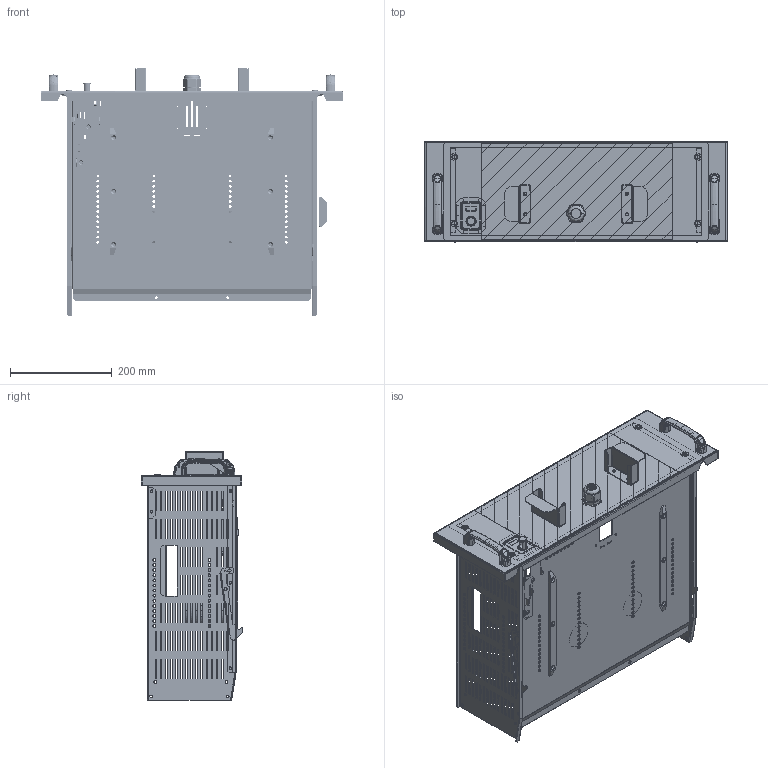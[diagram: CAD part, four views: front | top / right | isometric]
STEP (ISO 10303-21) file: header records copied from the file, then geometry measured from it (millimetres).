
FILE_DESCRIPTION(('CAx-IF Rec.Pracs.---Model Styling and Organization---1.2---2011-12-15','CAx-IF Rec.Pracs.---Geometric and Assembly Validation Properties---4.1---2014-06-16','CAx-IF Rec.Pracs.---PMI Polyline Presentation---2.0---2013-05-24'),'2;1');
FILE_NAME('R5M2W4M1BEPC.stp','2021-05-05T12:19:29+03:00',(''),(''),'STEP Interface 4.4 by CT CoreTechnologie','3D_Evolution4.4 by CT CoreTechnologie','');
FILE_SCHEMA(('AUTOMOTIVE_DESIGN { 1 0 10303 214 1 1 1 1 }'));
Length unit declared in the file: millimetre
Products named in the file (59): R5M2W4M1BEPC; RB.1768.00.00.0; CNTD CMV103D_-00; 20504_01; RB.1770.00.00.0; Insulator ISBK_ISBK9988; RB.1775.00.00.0 ÑÁ_-01; RB.1775.01.00.0 ÑÁ; RB.1505.00.02.0; M5x12-DIN 7500M ISR_stright; RB.1505.00.05.0_-00; Ì4-GOST R 50273-92 (DIN 985)_stright DIN EN ISO 10511 - M4 - N; RB.1505.00.01.0; RB.1503.00.00.0 ÑÁ; RB.1503.00.06.0_-00; RB.1503.00.07.0_-00; RB.1503.00.08.0_'­ ª«¥¥­­ ï'; RB.1503.00.01.0_-00; RB.1503.00.03.0_123; RB.1503.00.04.0_123; RB.1503.00.05.0_123; RB.1500.00.00.1 ÑÁ_-00 (ëª«); RB.1500.00.06.0; RB.1500.00.07.0; RB.1500.00.08.1; M6-DIN 985 (ISO 10511) (CM250600)_stright; RB.1500.00.10.0_In prestressed condition - 30 mm; M4x25 GOST 17473-80 (DIN 7985)_stright; RB.1500.00.03.0; RB.1500.00.04.1_-00; RB.1500.00.05.1; M5x8-DIN7500C_stright; RB.1501.00.00.0 ÑÁ_-01; RB.1501.00.01.0_-01; M6 art.MGR-MKO-0625_2¬¬; RB.1499.00.04.0_-01; RB.1775.02.00.0 ÑÁ_-01; RB.1775.02.01.0; M5-DIN 985 (ISO 10511)._stright; RB.1499.00.01.0_-01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
Assembly tree (103 placements, depth 5):
  R5M2W4M1BEPC
    RB.1768.00.00.0
    CNTD CMV103D_-00
      20504_01
    RB.1770.00.00.0
    Insulator ISBK_ISBK9988  x2
    RB.1775.00.00.0 ÑÁ_-01
      RB.1775.01.00.0 ÑÁ
        RB.1505.00.02.0  x2
        M5x12-DIN 7500M ISR_stright  x7
        RB.1505.00.05.0_-00
        Ì4-GOST R 50273-92 (DIN 985)_stright DIN EN ISO 10511 - M4 - N
        RB.1505.00.01.0
        RB.1503.00.00.0 ÑÁ
          RB.1503.00.06.0_-00
          RB.1503.00.07.0_-00
          RB.1503.00.01.0_-00
          RB.1503.00.03.0_123
          RB.1503.00.04.0_123
          RB.1503.00.05.0_123
        RB.1500.00.00.1 ÑÁ_-00 (ëª«)
          RB.1500.00.06.0
          RB.1500.00.07.0
          RB.1500.00.08.1
          M6-DIN 985 (ISO 10511) (CM250600)_stright
          RB.1500.00.10.0_In prestressed condition - 30 mm
          Ì4-GOST R 50273-92 (DIN 985)_stright DIN EN ISO 10511 - M4 - N
          M4x25 GOST 17473-80 (DIN 7985)_stright
          RB.1500.00.03.0
          RB.1500.00.04.1_-00
          RB.1500.00.05.1
      M5x8-DIN7500C_stright  x14
      RB.1501.00.00.0 ÑÁ_-01
        RB.1501.00.01.0_-01
        M6 art.MGR-MKO-0625_2¬¬  x2
        RB.1499.00.04.0_-01
      RB.1775.02.00.0 ÑÁ_-01
        RB.1775.02.01.0
        M5x12-DIN 7500M ISR_stright  x2
        M5-DIN 985 (ISO 10511)._stright  x2
        RB.1499.00.01.0_-01
        M6 art.MGR-MKO-0625_2¬¬  x2
        RB.1499.00.04.0_-00
      6-DIN 6798A (CM220600)_DIN 6798-A6.4  x4
      RB.1775.03.00.0 ÑÁ_-01
        RB.1775.03.01.0_-01
        PF 7x14 RAMmcc 2.0_4å1
        AC00C061_AC00C061
        Ì6õ12-A5100231_straight
        PF 3.5x7 RAMmcc 2.0_00
      4.444.001  x2
        PR.DT477.100.02
        PR.DT477.100.01
      6-GOST 11371-78 (DIN 125) PA 6.6_6-GOST 11371-78 (DIN 125) PA 6.6  x4
      Ì5-GOST 5915-70 (DIN 934)_straight  x4
      M6x12 (A1100001)_stright  x4
      M5x16 GOST 17475-80 (DIN 965)_straight  x4
      RB.1356.00.00.0
      Cable clamp PG 21
      RB.1775.00.01.0_-01
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Bounding box: 594 x 198.93 x 488.84 mm (x, y, z)
Surface area: 1564512.3 mm2 (no closed solid volume)
Topology: 0 solids, 127 shells, 5601 faces, 14481 edges, 9018 vertices
Faces by surface type: plane 2720, bspline 1654, cylinder 1227
Full cylindrical faces by diameter (mm): 3.2 x2
Entity records: 158783 total; most frequent: CARTESIAN_POINT 53712, ORIENTED_EDGE 21554, DIRECTION 20359, EDGE_CURVE 10801, VECTOR 7161, LINE 7161, VERTEX_POINT 6870, AXIS2_PLACEMENT_3D 6599
